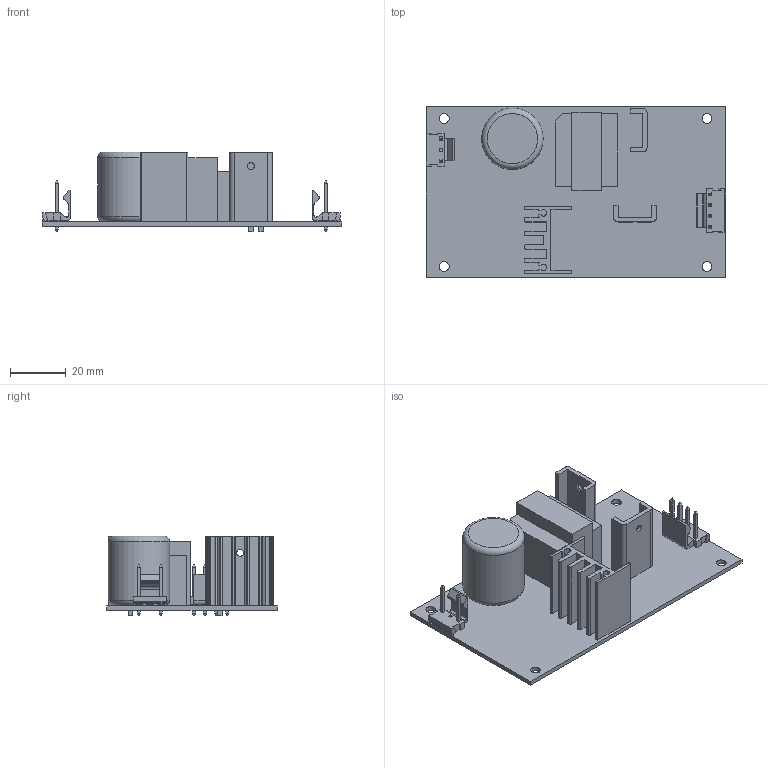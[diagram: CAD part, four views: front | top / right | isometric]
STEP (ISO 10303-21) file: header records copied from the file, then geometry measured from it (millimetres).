
FILE_DESCRIPTION((''),'2;1');
FILE_NAME('W:\mechanical\機構工程圖\3D圖檔\3D Outline-2020\已完成待審核\PD-25.stp','2020-07-08T17:40:33',('shirley'),(''),'Autodesk Inventor 2010','Autodesk Inventor 2010','');
FILE_SCHEMA(('AUTOMOTIVE_DESIGN { 1 0 10303 214 1 1 1 1 }'));
Length unit declared in the file: millimetre
Products named in the file (8): PD-25; PCB; 41791-03N2; 41791-04; C5; HS1; t1; YS022W
Assembly tree (8 placements, depth 2):
  PD-25
    PCB
    41791-03N2
    41791-04
    C5
    HS1
    t1
    YS022W  x2
Bounding box: 107 x 61 x 28.56 mm (x, y, z)
Volume: 37979.8 mm3; surface area: 28232.2 mm2
Topology: 8 solids, 8 shells, 352 faces, 1019 edges, 791 vertices
Faces by surface type: plane 307, cylinder 40, torus 5
Full cylindrical faces by diameter (mm): 2.5 x3, 3.5 x4, 22 x1
Entity records: 11243 total; most frequent: CARTESIAN_POINT 1969, DIRECTION 1759, ORIENTED_EDGE 1714, VECTOR 863, LINE 863, EDGE_CURVE 857, VERTEX_POINT 560, AXIS2_PLACEMENT_3D 448
